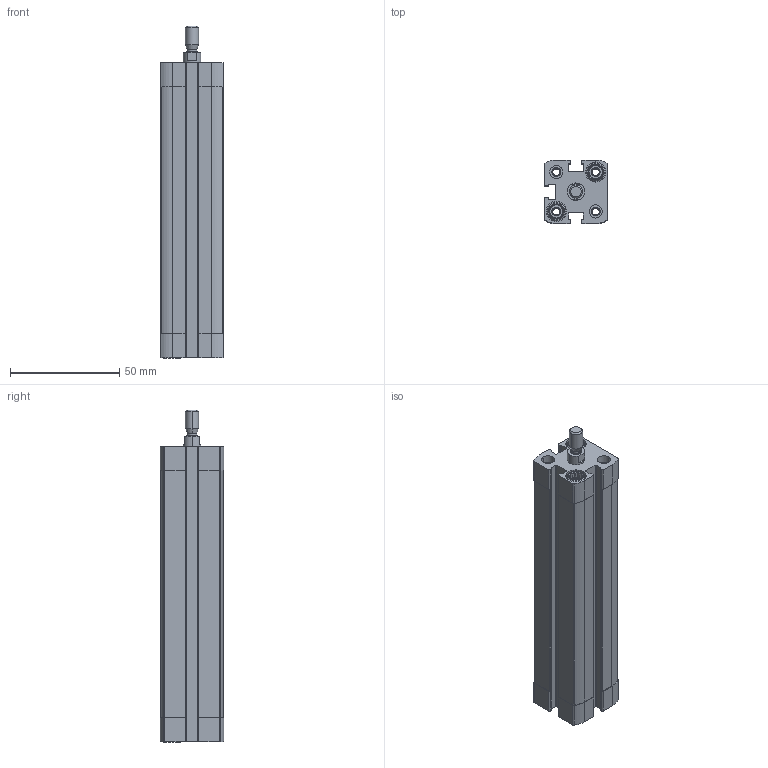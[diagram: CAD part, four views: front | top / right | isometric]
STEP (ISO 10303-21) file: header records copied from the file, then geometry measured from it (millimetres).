
FILE_DESCRIPTION (( 'STEP AP203' ), '1' );
FILE_NAME ('CCN16-100M.STEP', '2017-03-28T14:34:51', ( '' ), ( '' ), 'SwSTEP 2.0', 'SolidWorks 2016', '' );
FILE_SCHEMA (( 'CONFIG_CONTROL_DESIGN' ));
Length unit declared in the file: millimetre
Products named in the file (3): CCN-100_(KS); CCN16-100M; CCN-100---(Z)
Assembly tree (2 placements, depth 2):
  CCN16-100M
    CCN-100---(Z)
    CCN-100_(KS)
Bounding box: 29 x 29 x 151.7 mm (x, y, z)
Volume: 73928.3 mm3; surface area: 38989.1 mm2
Topology: 2 solids, 2 shells, 365 faces, 942 edges, 616 vertices
Faces by surface type: plane 187, cylinder 134, cone 40, bspline 4
Entity records: 11613 total; most frequent: CARTESIAN_POINT 2288, DIRECTION 1898, ORIENTED_EDGE 1884, EDGE_CURVE 942, AXIS2_PLACEMENT_3D 690, VERTEX_POINT 616, LINE 518, VECTOR 518
